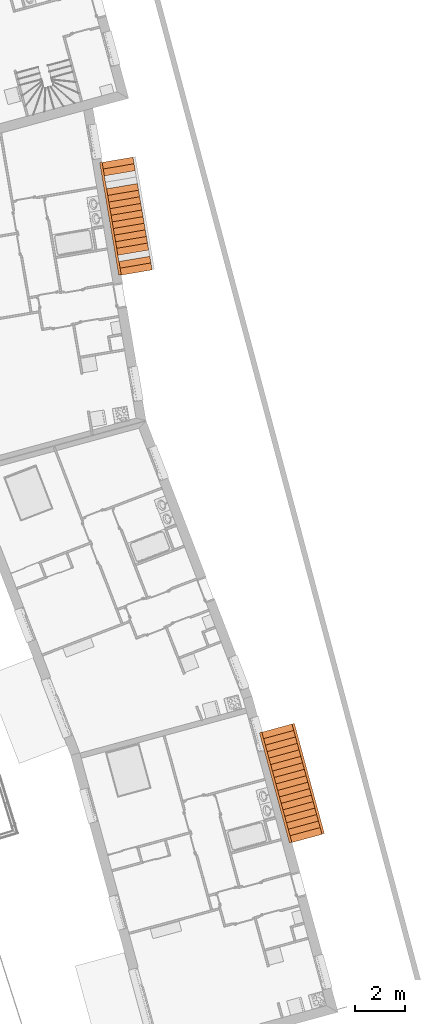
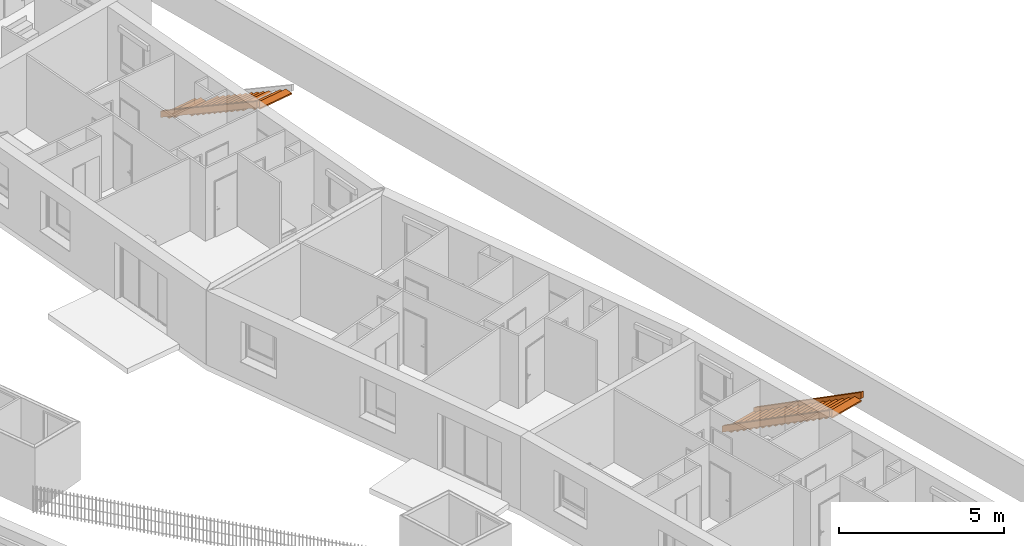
# One storey, part 193 of 195: 34 proxies, 2 elements without a shape of their own.
"""IFC2X3 building model written with IfcOpenShell, lengths in metres."""

from ifc_helpers import new_model, entity, si_unit, converted_unit, derived_unit, money_unit, direction, frame, origin_with_axes, place, context, subcontext, project, spatial, faceted_brep, material, type_object, element, aggregate, save


model = new_model("IFC2X3")

# Units and contexts
model_context = context("Model", 3, precision=1e-05, world=origin_with_axes(), true_north=direction((0.0, 1.0)))
body_context = subcontext(model_context, "Body", "Model", "MODEL_VIEW")
ifc_project = project(units=[si_unit("LENGTHUNIT", "METRE"), si_unit("AREAUNIT", "SQUARE_METRE"), si_unit("VOLUMEUNIT", "CUBIC_METRE"), converted_unit("PLANEANGLEUNIT", "DEGREE", entity("IfcPlaneAngleMeasure", 0.0174532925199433), si_unit("PLANEANGLEUNIT", "RADIAN"), dimensions=[0, 0, 0, 0, 0, 0, 0]), money_unit("CHF"), converted_unit("TIMEUNIT", "Year", entity("IfcTimeMeasure", 31557600.0), si_unit("TIMEUNIT", "SECOND"), dimensions=[0, 0, 1, 0, 0, 0, 0]), si_unit("MASSUNIT", "GRAM", prefix="KILO"), si_unit("THERMODYNAMICTEMPERATUREUNIT", "DEGREE_CELSIUS"), si_unit("LUMINOUSINTENSITYUNIT", "LUMEN"), si_unit("ENERGYUNIT", "JOULE", prefix="MEGA"), derived_unit("THERMALCONDUCTANCEUNIT", [(si_unit("POWERUNIT", "WATT"), 1), (si_unit("LENGTHUNIT", "METRE"), -1), (si_unit("THERMODYNAMICTEMPERATUREUNIT", "KELVIN"), -1)]), derived_unit("SPECIFICHEATCAPACITYUNIT", [(si_unit("ENERGYUNIT", "JOULE"), 1), (si_unit("MASSUNIT", "GRAM", prefix="KILO"), -1), (si_unit("THERMODYNAMICTEMPERATUREUNIT", "KELVIN"), -1)]), derived_unit("MASSDENSITYUNIT", [(si_unit("MASSUNIT", "GRAM", prefix="KILO"), 1), (si_unit("VOLUMEUNIT", "CUBIC_METRE"), -1)])], contexts=[model_context])

# Site, building, storey
site_placement = place(None, origin_with_axes())
site = spatial("IfcSite", under=ifc_project, at=site_placement, Name="Site", CompositionType="ELEMENT")
building_placement = place(site_placement, origin_with_axes())
building = spatial("IfcBuilding", under=site, at=building_placement, Name="Bâtiment", CompositionType="ELEMENT")
storey_placement = place(building_placement, origin_with_axes())
storey = spatial("IfcBuildingStorey", under=building, at=storey_placement, Name="rdc", CompositionType="ELEMENT", Elevation=0.0)

# Stair, proxies
stair_1_placement = place(storey_placement, frame((9595.28344814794, -1045.811355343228, 57.33248236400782), z_axis=(0.0, 0.0, 1.0), x_axis=(-2.25878143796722e-10, 1.0, 0.0)))
stair_1 = element("IfcStair", 1, at=stair_1_placement, inside=storey, Name="ESC-028", ShapeType="NOTDEFINED")
ifc_material_1 = material(Name="Isolant styromousse 288701002")
building_element_proxy_type = type_object("IfcBuildingElementProxyType", Name="IfcBuildingElementProxy", PredefinedType="NOTDEFINED")
proxy_1_placement = place(stair_1_placement, origin_with_axes())
proxy_1 = element("IfcBuildingElementProxy", 2, at=proxy_1_placement, type_object=building_element_proxy_type, material=ifc_material_1, Name="SS - 039", context=body_context, shape_type="Brep", body=[
    faceted_brep([(-4.428745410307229, -1.205949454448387, 2.882482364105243), (-4.428745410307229, -1.205949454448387, 3.117517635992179), (0.0, 0.0, 0.2841843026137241), (0.0, 0.0, 0.04914903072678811), (-4.402472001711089, -1.302436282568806, 3.117517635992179), (-4.402472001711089, -1.302436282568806, 2.882482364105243), (0.02627340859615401, -0.09648682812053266, 0.2841843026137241), (0.02627340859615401, -0.09648682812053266, 0.04914903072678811)], [[[0, 1, 2, 3]], [[4, 1, 0, 5]], [[1, 4, 6, 2]], [[2, 6, 7, 3]], [[5, 0, 3, 7]], [[4, 5, 7, 6]]]),
])
proxy_2_placement = place(stair_1_placement, origin_with_axes())
proxy_2 = element("IfcBuildingElementProxy", 3, at=proxy_2_placement, type_object=building_element_proxy_type, material=ifc_material_1, Name="SS - 039", context=body_context, shape_type="Brep", body=[
    faceted_brep([(-4.785391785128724, 0.1038036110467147, 2.882482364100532), (-4.785391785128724, 0.1038036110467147, 3.117517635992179), (-0.3566463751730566, 1.309753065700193, 0.2841843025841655), (-0.3566463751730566, 1.309753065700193, 0.04914903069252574), (-4.759118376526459, 0.007316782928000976, 3.117517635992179), (-4.759118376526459, 0.007316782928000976, 2.882482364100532), (-0.3303729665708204, 1.213266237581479, 0.2841843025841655), (-0.3303729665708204, 1.213266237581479, 0.04914903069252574)], [[[0, 1, 2, 3]], [[4, 1, 0, 5]], [[1, 4, 6, 2]], [[2, 6, 7, 3]], [[5, 0, 3, 7]], [[4, 5, 7, 6]]]),
])
ifc_material_2 = material(Name="Lame d'air 275581351")
proxy_3_placement = place(stair_1_placement, frame((-0.1274260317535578, 0.4679611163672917, 0.1666666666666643), z_axis=(0.0, 0.0, 1.0), x_axis=(-0.2627340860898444, 0.9648682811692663, 0.0)))
proxy_3 = element("IfcBuildingElementProxy", 4, at=proxy_3_placement, type_object=building_element_proxy_type, material=ifc_material_2, Name="MARCHE-537", context=body_context, shape_type="Brep", body=[
    faceted_brep([(-0.4849999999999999, 0.0, -0.05), (0.7724423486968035, 2.853337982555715e-10, -0.05), (0.7724423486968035, 2.853337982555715e-10, 0.0), (-0.4849999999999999, 0.0, 0.0), (-0.4849999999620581, 0.2849999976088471, -0.05), (0.7724423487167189, 0.2849999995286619, -0.05), (0.7724423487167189, 0.2849999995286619, 0.0), (-0.4849999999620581, 0.2849999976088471, 0.0)], [[[0, 1, 2, 3]], [[0, 4, 5, 1]], [[1, 5, 6, 2]], [[3, 2, 6, 7]], [[4, 0, 3, 7]], [[5, 4, 7, 6]]]),
])
proxy_4_placement = place(stair_1_placement, frame((-0.3879404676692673, 0.3970229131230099, 0.3333333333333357), z_axis=(0.0, 0.0, 1.0), x_axis=(-0.2627340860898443, 0.9648682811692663, 0.0)))
proxy_4 = element("IfcBuildingElementProxy", 5, at=proxy_4_placement, type_object=building_element_proxy_type, material=ifc_material_2, Name="MARCHE-538", context=body_context, shape_type="Brep", body=[
    faceted_brep([(-0.4849999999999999, 0.0, -0.05), (0.7724423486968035, 2.853337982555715e-10, -0.05), (0.7724423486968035, 2.853337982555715e-10, 0.0), (-0.4849999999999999, 0.0, 0.0), (-0.4849999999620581, 0.2849999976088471, -0.05), (0.7724423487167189, 0.2849999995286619, -0.05), (0.7724423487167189, 0.2849999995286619, 0.0), (-0.4849999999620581, 0.2849999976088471, 0.0)], [[[0, 1, 2, 3]], [[0, 4, 5, 1]], [[1, 5, 6, 2]], [[3, 2, 6, 7]], [[4, 0, 3, 7]], [[5, 4, 7, 6]]]),
])
proxy_5_placement = place(stair_1_placement, frame((-0.6484549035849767, 0.3260847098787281, 0.5), z_axis=(0.0, 0.0, 1.0), x_axis=(-0.2627340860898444, 0.9648682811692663, 0.0)))
proxy_5 = element("IfcBuildingElementProxy", 6, at=proxy_5_placement, type_object=building_element_proxy_type, material=ifc_material_2, Name="MARCHE-539", context=body_context, shape_type="Brep", body=[
    faceted_brep([(-0.4849999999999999, 0.0, -0.05), (0.7724423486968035, 2.853337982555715e-10, -0.05), (0.7724423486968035, 2.853337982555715e-10, 0.0), (-0.4849999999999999, 0.0, 0.0), (-0.4849999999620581, 0.2849999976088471, -0.05), (0.7724423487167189, 0.2849999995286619, -0.05), (0.7724423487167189, 0.2849999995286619, 0.0), (-0.4849999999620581, 0.2849999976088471, 0.0)], [[[0, 1, 2, 3]], [[0, 4, 5, 1]], [[1, 5, 6, 2]], [[3, 2, 6, 7]], [[4, 0, 3, 7]], [[5, 4, 7, 6]]]),
])
proxy_6_placement = place(stair_1_placement, frame((-0.9089693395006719, 0.25514650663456, 0.6666666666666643), z_axis=(0.0, 0.0, 1.0), x_axis=(-0.2627340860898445, 0.9648682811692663, 0.0)))
proxy_6 = element("IfcBuildingElementProxy", 7, at=proxy_6_placement, type_object=building_element_proxy_type, material=ifc_material_2, Name="MARCHE-540", context=body_context, shape_type="Brep", body=[
    faceted_brep([(-0.4849999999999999, 0.0, -0.05), (0.7724423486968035, 2.853337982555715e-10, -0.05), (0.7724423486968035, 2.853337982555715e-10, 0.0), (-0.4849999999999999, 0.0, 0.0), (-0.4849999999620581, 0.2849999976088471, -0.05), (0.7724423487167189, 0.2849999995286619, -0.05), (0.7724423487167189, 0.2849999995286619, 0.0), (-0.4849999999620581, 0.2849999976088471, 0.0)], [[[0, 1, 2, 3]], [[0, 4, 5, 1]], [[1, 5, 6, 2]], [[3, 2, 6, 7]], [[4, 0, 3, 7]], [[5, 4, 7, 6]]]),
])
proxy_7_placement = place(stair_1_placement, frame((-1.169483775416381, 0.1842083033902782, 0.8333333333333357), z_axis=(0.0, 0.0, 1.0), x_axis=(-0.2627340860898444, 0.9648682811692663, 0.0)))
proxy_7 = element("IfcBuildingElementProxy", 8, at=proxy_7_placement, type_object=building_element_proxy_type, material=ifc_material_2, Name="MARCHE-541", context=body_context, shape_type="Brep", body=[
    faceted_brep([(-0.4849999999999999, 0.0, -0.05), (0.7724423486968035, 2.853337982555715e-10, -0.05), (0.7724423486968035, 2.853337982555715e-10, 0.0), (-0.4849999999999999, 0.0, 0.0), (-0.4849999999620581, 0.2849999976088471, -0.05), (0.7724423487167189, 0.2849999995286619, -0.05), (0.7724423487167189, 0.2849999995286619, 0.0), (-0.4849999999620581, 0.2849999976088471, 0.0)], [[[0, 1, 2, 3]], [[0, 4, 5, 1]], [[1, 5, 6, 2]], [[3, 2, 6, 7]], [[4, 0, 3, 7]], [[5, 4, 7, 6]]]),
])
proxy_8_placement = place(stair_1_placement, frame((-1.690512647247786, 0.04233189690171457, 1.166666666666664), z_axis=(0.0, 0.0, 1.0), x_axis=(-0.2627340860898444, 0.9648682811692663, 0.0)))
proxy_8 = element("IfcBuildingElementProxy", 9, at=proxy_8_placement, type_object=building_element_proxy_type, material=ifc_material_2, Name="MARCHE-543", context=body_context, shape_type="Brep", body=[
    faceted_brep([(-0.4849999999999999, 0.0, -0.05), (0.7724423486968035, 2.853337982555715e-10, -0.05), (0.7724423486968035, 2.853337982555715e-10, 0.0), (-0.4849999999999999, 0.0, 0.0), (-0.4849999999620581, 0.2849999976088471, -0.05), (0.7724423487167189, 0.2849999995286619, -0.05), (0.7724423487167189, 0.2849999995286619, 0.0), (-0.4849999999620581, 0.2849999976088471, 0.0)], [[[0, 1, 2, 3]], [[0, 4, 5, 1]], [[1, 5, 6, 2]], [[3, 2, 6, 7]], [[4, 0, 3, 7]], [[5, 4, 7, 6]]]),
])
proxy_9_placement = place(stair_1_placement, frame((-1.429998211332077, 0.1132701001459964, 1.0), z_axis=(0.0, 0.0, 1.0), x_axis=(-0.2627340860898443, 0.9648682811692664, 0.0)))
proxy_9 = element("IfcBuildingElementProxy", 10, at=proxy_9_placement, type_object=building_element_proxy_type, material=ifc_material_2, Name="MARCHE-542", context=body_context, shape_type="Brep", body=[
    faceted_brep([(-0.4849999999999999, 0.0, -0.05), (0.7724423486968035, 2.853337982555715e-10, -0.05), (0.7724423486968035, 2.853337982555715e-10, 0.0), (-0.4849999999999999, 0.0, 0.0), (-0.4849999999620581, 0.2849999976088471, -0.05), (0.7724423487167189, 0.2849999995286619, -0.05), (0.7724423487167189, 0.2849999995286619, 0.0), (-0.4849999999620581, 0.2849999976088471, 0.0)], [[[0, 1, 2, 3]], [[0, 4, 5, 1]], [[1, 5, 6, 2]], [[3, 2, 6, 7]], [[4, 0, 3, 7]], [[5, 4, 7, 6]]]),
])
proxy_10_placement = place(stair_1_placement, frame((-2.211541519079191, -0.09954450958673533, 1.5), z_axis=(0.0, 0.0, 1.0), x_axis=(-0.2627340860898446, 0.9648682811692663, 0.0)))
proxy_10 = element("IfcBuildingElementProxy", 11, at=proxy_10_placement, type_object=building_element_proxy_type, material=ifc_material_2, Name="MARCHE-545", context=body_context, shape_type="Brep", body=[
    faceted_brep([(-0.4849999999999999, 0.0, -0.05), (0.7724423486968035, 2.853337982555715e-10, -0.05), (0.7724423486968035, 2.853337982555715e-10, 0.0), (-0.4849999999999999, 0.0, 0.0), (-0.4849999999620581, 0.2849999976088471, -0.05), (0.7724423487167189, 0.2849999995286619, -0.05), (0.7724423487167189, 0.2849999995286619, 0.0), (-0.4849999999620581, 0.2849999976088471, 0.0)], [[[0, 1, 2, 3]], [[0, 4, 5, 1]], [[1, 5, 6, 2]], [[3, 2, 6, 7]], [[4, 0, 3, 7]], [[5, 4, 7, 6]]]),
])
proxy_11_placement = place(stair_1_placement, frame((-1.951027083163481, -0.02860630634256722, 1.333333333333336), z_axis=(0.0, 0.0, 1.0), x_axis=(-0.2627340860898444, 0.9648682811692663, 0.0)))
proxy_11 = element("IfcBuildingElementProxy", 12, at=proxy_11_placement, type_object=building_element_proxy_type, material=ifc_material_2, Name="MARCHE-544", context=body_context, shape_type="Brep", body=[
    faceted_brep([(-0.4849999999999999, 0.0, -0.05), (0.7724423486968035, 2.853337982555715e-10, -0.05), (0.7724423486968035, 2.853337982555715e-10, 0.0), (-0.4849999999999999, 0.0, 0.0), (-0.4849999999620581, 0.2849999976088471, -0.05), (0.7724423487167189, 0.2849999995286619, -0.05), (0.7724423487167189, 0.2849999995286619, 0.0), (-0.4849999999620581, 0.2849999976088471, 0.0)], [[[0, 1, 2, 3]], [[0, 4, 5, 1]], [[1, 5, 6, 2]], [[3, 2, 6, 7]], [[4, 0, 3, 7]], [[5, 4, 7, 6]]]),
])
proxy_12_placement = place(stair_1_placement, frame((-2.732570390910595, -0.2414209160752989, 1.833333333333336), z_axis=(0.0, 0.0, 1.0), x_axis=(-0.2627340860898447, 0.9648682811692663, 0.0)))
proxy_12 = element("IfcBuildingElementProxy", 13, at=proxy_12_placement, type_object=building_element_proxy_type, material=ifc_material_2, Name="MARCHE-547", context=body_context, shape_type="Brep", body=[
    faceted_brep([(-0.4849999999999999, 0.0, -0.05), (0.7724423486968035, 2.853337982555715e-10, -0.05), (0.7724423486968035, 2.853337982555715e-10, 0.0), (-0.4849999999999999, 0.0, 0.0), (-0.4849999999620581, 0.2849999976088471, -0.05), (0.7724423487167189, 0.2849999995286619, -0.05), (0.7724423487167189, 0.2849999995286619, 0.0), (-0.4849999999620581, 0.2849999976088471, 0.0)], [[[0, 1, 2, 3]], [[0, 4, 5, 1]], [[1, 5, 6, 2]], [[3, 2, 6, 7]], [[4, 0, 3, 7]], [[5, 4, 7, 6]]]),
])
proxy_13_placement = place(stair_1_placement, frame((-2.472055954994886, -0.1704827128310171, 1.666666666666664), z_axis=(0.0, 0.0, 1.0), x_axis=(-0.2627340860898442, 0.9648682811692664, 0.0)))
proxy_13 = element("IfcBuildingElementProxy", 14, at=proxy_13_placement, type_object=building_element_proxy_type, material=ifc_material_2, Name="MARCHE-546", context=body_context, shape_type="Brep", body=[
    faceted_brep([(-0.4849999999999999, 0.0, -0.05), (0.7724423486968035, 2.853337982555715e-10, -0.05), (0.7724423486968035, 2.853337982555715e-10, 0.0), (-0.4849999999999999, 0.0, 0.0), (-0.4849999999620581, 0.2849999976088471, -0.05), (0.7724423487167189, 0.2849999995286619, -0.05), (0.7724423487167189, 0.2849999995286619, 0.0), (-0.4849999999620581, 0.2849999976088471, 0.0)], [[[0, 1, 2, 3]], [[0, 4, 5, 1]], [[1, 5, 6, 2]], [[3, 2, 6, 7]], [[4, 0, 3, 7]], [[5, 4, 7, 6]]]),
])
proxy_14_placement = place(stair_1_placement, frame((-3.514113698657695, -0.4542355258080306, 2.333333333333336), z_axis=(0.0, 0.0, 1.0), x_axis=(-0.2627340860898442, 0.9648682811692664, 0.0)))
proxy_14 = element("IfcBuildingElementProxy", 15, at=proxy_14_placement, type_object=building_element_proxy_type, material=ifc_material_2, Name="MARCHE-550", context=body_context, shape_type="Brep", body=[
    faceted_brep([(-0.4849999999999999, 0.0, -0.05), (0.7724423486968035, 2.853337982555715e-10, -0.05), (0.7724423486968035, 2.853337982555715e-10, 0.0), (-0.4849999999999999, 0.0, 0.0), (-0.4849999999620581, 0.2849999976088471, -0.05), (0.7724423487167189, 0.2849999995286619, -0.05), (0.7724423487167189, 0.2849999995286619, 0.0), (-0.4849999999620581, 0.2849999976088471, 0.0)], [[[0, 1, 2, 3]], [[0, 4, 5, 1]], [[1, 5, 6, 2]], [[3, 2, 6, 7]], [[4, 0, 3, 7]], [[5, 4, 7, 6]]]),
])
proxy_15_placement = place(stair_1_placement, frame((-3.253599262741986, -0.3832973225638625, 2.166666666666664), z_axis=(0.0, 0.0, 1.0), x_axis=(-0.2627340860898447, 0.9648682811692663, 0.0)))
proxy_15 = element("IfcBuildingElementProxy", 16, at=proxy_15_placement, type_object=building_element_proxy_type, material=ifc_material_2, Name="MARCHE-549", context=body_context, shape_type="Brep", body=[
    faceted_brep([(-0.4849999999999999, 0.0, -0.05), (0.7724423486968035, 2.853337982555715e-10, -0.05), (0.7724423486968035, 2.853337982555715e-10, 0.0), (-0.4849999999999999, 0.0, 0.0), (-0.4849999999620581, 0.2849999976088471, -0.05), (0.7724423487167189, 0.2849999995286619, -0.05), (0.7724423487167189, 0.2849999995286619, 0.0), (-0.4849999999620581, 0.2849999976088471, 0.0)], [[[0, 1, 2, 3]], [[0, 4, 5, 1]], [[1, 5, 6, 2]], [[3, 2, 6, 7]], [[4, 0, 3, 7]], [[5, 4, 7, 6]]]),
])
proxy_16_placement = place(stair_1_placement, frame((-2.993084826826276, -0.3123591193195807, 2.0), z_axis=(0.0, 0.0, 1.0), x_axis=(-0.2627340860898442, 0.9648682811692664, 0.0)))
proxy_16 = element("IfcBuildingElementProxy", 17, at=proxy_16_placement, type_object=building_element_proxy_type, material=ifc_material_2, Name="MARCHE-548", context=body_context, shape_type="Brep", body=[
    faceted_brep([(-0.4849999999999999, 0.0, -0.05), (0.7724423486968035, 2.853337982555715e-10, -0.05), (0.7724423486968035, 2.853337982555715e-10, 0.0), (-0.4849999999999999, 0.0, 0.0), (-0.4849999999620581, 0.2849999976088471, -0.05), (0.7724423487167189, 0.2849999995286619, -0.05), (0.7724423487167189, 0.2849999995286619, 0.0), (-0.4849999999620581, 0.2849999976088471, 0.0)], [[[0, 1, 2, 3]], [[0, 4, 5, 1]], [[1, 5, 6, 2]], [[3, 2, 6, 7]], [[4, 0, 3, 7]], [[5, 4, 7, 6]]]),
])
proxy_17_placement = place(stair_1_placement, frame((-3.774628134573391, -0.5251737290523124, 2.5), z_axis=(0.0, 0.0, 1.0), x_axis=(-0.2627340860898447, 0.9648682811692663, 0.0)))
proxy_17 = element("IfcBuildingElementProxy", 18, at=proxy_17_placement, type_object=building_element_proxy_type, material=ifc_material_2, Name="MARCHE-551", context=body_context, shape_type="Brep", body=[
    faceted_brep([(-0.4849999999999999, 0.0, -0.05), (0.7724423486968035, 2.853337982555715e-10, -0.05), (0.7724423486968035, 2.853337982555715e-10, 0.0), (-0.4849999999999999, 0.0, 0.0), (-0.4849999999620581, 0.2849999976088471, -0.05), (0.7724423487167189, 0.2849999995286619, -0.05), (0.7724423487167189, 0.2849999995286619, 0.0), (-0.4849999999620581, 0.2849999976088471, 0.0)], [[[0, 1, 2, 3]], [[0, 4, 5, 1]], [[1, 5, 6, 2]], [[3, 2, 6, 7]], [[4, 0, 3, 7]], [[5, 4, 7, 6]]]),
])
proxy_18_placement = place(stair_1_placement, frame((-4.295657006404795, -0.667050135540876, 2.833333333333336), z_axis=(0.0, 0.0, 1.0), x_axis=(-0.262734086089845, 0.9648682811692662, 0.0)))
proxy_18 = element("IfcBuildingElementProxy", 19, at=proxy_18_placement, type_object=building_element_proxy_type, material=ifc_material_2, Name="MARCHE-553", context=body_context, shape_type="Brep", body=[
    faceted_brep([(-0.4849999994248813, 0.0, -0.05), (0.7724423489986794, 0.0, -0.05), (0.7724423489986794, 0.0, 0.0), (-0.4849999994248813, 0.0, 0.0), (-0.4849999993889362, 0.2699999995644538, -0.05), (-0.4849999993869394, 0.2849999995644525, -0.05), (0.7724423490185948, 0.2849999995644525, -0.05), (0.7724423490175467, 0.269999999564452, -0.05), (0.7724423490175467, 0.269999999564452, 0.0), (0.7724423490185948, 0.2849999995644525, 0.0), (-0.4849999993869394, 0.2849999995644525, 0.0), (-0.4849999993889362, 0.2699999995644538, 0.0)], [[[0, 1, 2, 3]], [[0, 4, 5, 6, 7, 1]], [[1, 7, 8, 2]], [[3, 2, 8, 9, 10, 11]], [[4, 0, 3, 11]], [[5, 4, 11, 10]], [[6, 5, 10, 9]], [[7, 6, 9, 8]]]),
])
proxy_19_placement = place(stair_1_placement, frame((-4.0351425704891, -0.5961119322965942, 2.666666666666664), z_axis=(0.0, 0.0, 1.0), x_axis=(-0.2627340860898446, 0.9648682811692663, 0.0)))
proxy_19 = element("IfcBuildingElementProxy", 20, at=proxy_19_placement, type_object=building_element_proxy_type, material=ifc_material_2, Name="MARCHE-552", context=body_context, shape_type="Brep", body=[
    faceted_brep([(-0.4849999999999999, 0.0, -0.05), (0.7724423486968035, 2.853337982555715e-10, -0.05), (0.7724423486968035, 2.853337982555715e-10, 0.0), (-0.4849999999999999, 0.0, 0.0), (-0.4849999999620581, 0.2849999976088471, -0.05), (0.7724423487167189, 0.2849999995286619, -0.05), (0.7724423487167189, 0.2849999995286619, 0.0), (-0.4849999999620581, 0.2849999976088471, 0.0)], [[[0, 1, 2, 3]], [[0, 4, 5, 1]], [[1, 5, 6, 2]], [[3, 2, 6, 7]], [[4, 0, 3, 7]], [[5, 4, 7, 6]]]),
])
aggregate(stair_1, [proxy_1, proxy_2, proxy_3, proxy_4, proxy_5, proxy_6, proxy_7, proxy_8, proxy_9, proxy_10, proxy_11, proxy_12, proxy_13, proxy_14, proxy_15, proxy_16, proxy_17, proxy_18, proxy_19])

stair_2_placement = place(storey_placement, frame((9588.879218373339, -1022.991794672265, 57.33248236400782), z_axis=(0.0, 0.0, 1.0), x_axis=(0.0973908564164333, 0.9952462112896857, 0.0)))
stair_2 = element("IfcStair", 21, at=stair_2_placement, inside=storey, Name="ESC-028", ShapeType="NOTDEFINED")
proxy_20_placement = place(stair_2_placement, origin_with_axes())
proxy_20 = element("IfcBuildingElementProxy", 22, at=proxy_20_placement, type_object=building_element_proxy_type, material=ifc_material_1, Name="SS - 039", context=body_context, shape_type="Brep", body=[
    faceted_brep([(-4.785391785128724, 0.1038036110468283, 2.882482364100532), (-4.785391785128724, 0.1038036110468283, 3.117517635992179), (-0.3566463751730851, 1.309753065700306, 0.2841843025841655), (-0.3566463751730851, 1.309753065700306, 0.04914903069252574), (-4.759118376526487, 0.007316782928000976, 3.117517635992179), (-4.759118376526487, 0.007316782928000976, 2.882482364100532), (-0.3303729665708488, 1.213266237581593, 0.2841843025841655), (-0.3303729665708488, 1.213266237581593, 0.04914903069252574)], [[[0, 1, 2, 3]], [[4, 1, 0, 5]], [[1, 4, 6, 2]], [[2, 6, 7, 3]], [[5, 0, 3, 7]], [[4, 5, 7, 6]]]),
])
proxy_21_placement = place(stair_2_placement, frame((-0.127426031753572, 0.4679611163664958, 0.1666666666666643), z_axis=(0.0, 0.0, 1.0), x_axis=(-0.2627340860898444, 0.9648682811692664, 0.0)))
proxy_21 = element("IfcBuildingElementProxy", 23, at=proxy_21_placement, type_object=building_element_proxy_type, material=ifc_material_2, Name="MARCHE-537", context=body_context, shape_type="Brep", body=[
    faceted_brep([(-0.4850000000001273, 0.0, -0.04999999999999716), (0.7724423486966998, 2.853255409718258e-10, -0.04999999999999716), (0.7724423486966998, 2.853255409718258e-10, 0.0), (-0.4850000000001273, 0.0, 0.0), (-0.4849999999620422, 0.2849999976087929, -0.04999999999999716), (0.7724423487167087, 0.284999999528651, -0.04999999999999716), (0.7724423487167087, 0.284999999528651, 0.0), (-0.4849999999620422, 0.2849999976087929, 0.0)], [[[0, 1, 2, 3]], [[0, 4, 5, 1]], [[1, 5, 6, 2]], [[3, 2, 6, 7]], [[4, 0, 3, 7]], [[5, 4, 7, 6]]]),
])
proxy_22_placement = place(stair_2_placement, frame((-0.3879404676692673, 0.3970229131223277, 0.3333333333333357), z_axis=(0.0, 0.0, 1.0), x_axis=(-0.2627340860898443, 0.9648682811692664, 0.0)))
proxy_22 = element("IfcBuildingElementProxy", 24, at=proxy_22_placement, type_object=building_element_proxy_type, material=ifc_material_2, Name="MARCHE-538", context=body_context, shape_type="Brep", body=[
    faceted_brep([(-0.4850000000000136, 0.0, -0.04999999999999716), (0.7724423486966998, 2.853539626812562e-10, -0.04999999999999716), (0.7724423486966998, 2.853539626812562e-10, 0.0), (-0.4850000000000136, 0.0, 0.0), (-0.4849999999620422, 0.2849999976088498, -0.04999999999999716), (0.7724423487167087, 0.2849999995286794, -0.04999999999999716), (0.7724423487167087, 0.2849999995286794, 0.0), (-0.4849999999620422, 0.2849999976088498, 0.0)], [[[0, 1, 2, 3]], [[0, 4, 5, 1]], [[1, 5, 6, 2]], [[3, 2, 6, 7]], [[4, 0, 3, 7]], [[5, 4, 7, 6]]]),
])
proxy_23_placement = place(stair_2_placement, frame((-1.429998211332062, 0.1132701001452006, 1.0), z_axis=(0.0, 0.0, 1.0), x_axis=(-0.2627340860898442, 0.9648682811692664, 0.0)))
proxy_23 = element("IfcBuildingElementProxy", 25, at=proxy_23_placement, type_object=building_element_proxy_type, material=ifc_material_2, Name="MARCHE-542", context=body_context, shape_type="Brep", body=[
    faceted_brep([(-0.4850000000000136, 0.0, -0.04999999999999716), (0.7724423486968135, 2.853539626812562e-10, -0.04999999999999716), (0.7724423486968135, 2.853539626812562e-10, 0.0), (-0.4850000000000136, 0.0, 0.0), (-0.4849999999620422, 0.2849999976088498, -0.04999999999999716), (0.7724423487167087, 0.2849999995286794, -0.04999999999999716), (0.7724423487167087, 0.2849999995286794, 0.0), (-0.4849999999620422, 0.2849999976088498, 0.0)], [[[0, 1, 2, 3]], [[0, 4, 5, 1]], [[1, 5, 6, 2]], [[3, 2, 6, 7]], [[4, 0, 3, 7]], [[5, 4, 7, 6]]]),
])
proxy_24_placement = place(stair_2_placement, frame((-1.169483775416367, 0.184208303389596, 0.8333333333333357), z_axis=(0.0, 0.0, 1.0), x_axis=(-0.2627340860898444, 0.9648682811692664, 0.0)))
proxy_24 = element("IfcBuildingElementProxy", 26, at=proxy_24_placement, type_object=building_element_proxy_type, material=ifc_material_2, Name="MARCHE-541", context=body_context, shape_type="Brep", body=[
    faceted_brep([(-0.4849999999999, 0.0, -0.04999999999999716), (0.7724423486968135, 2.853255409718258e-10, -0.04999999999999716), (0.7724423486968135, 2.853255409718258e-10, 0.0), (-0.4849999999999, 0.0, 0.0), (-0.4849999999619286, 0.2849999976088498, -0.04999999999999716), (0.7724423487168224, 0.2849999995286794, -0.04999999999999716), (0.7724423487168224, 0.2849999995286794, 0.0), (-0.4849999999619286, 0.2849999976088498, 0.0)], [[[0, 1, 2, 3]], [[0, 4, 5, 1]], [[1, 5, 6, 2]], [[3, 2, 6, 7]], [[4, 0, 3, 7]], [[5, 4, 7, 6]]]),
])
proxy_25_placement = place(stair_2_placement, frame((-1.690512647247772, 0.04233189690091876, 1.166666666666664), z_axis=(0.0, 0.0, 1.0), x_axis=(-0.2627340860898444, 0.9648682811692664, 0.0)))
proxy_25 = element("IfcBuildingElementProxy", 27, at=proxy_25_placement, type_object=building_element_proxy_type, material=ifc_material_2, Name="MARCHE-543", context=body_context, shape_type="Brep", body=[
    faceted_brep([(-0.4850000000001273, 0.0, -0.04999999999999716), (0.7724423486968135, 2.853823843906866e-10, -0.04999999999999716), (0.7724423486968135, 2.853823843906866e-10, 0.0), (-0.4850000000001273, 0.0, 0.0), (-0.4849999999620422, 0.2849999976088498, -0.04999999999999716), (0.7724423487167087, 0.2849999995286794, -0.04999999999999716), (0.7724423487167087, 0.2849999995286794, 0.0), (-0.4849999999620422, 0.2849999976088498, 0.0)], [[[0, 1, 2, 3]], [[0, 4, 5, 1]], [[1, 5, 6, 2]], [[3, 2, 6, 7]], [[4, 0, 3, 7]], [[5, 4, 7, 6]]]),
])
proxy_26_placement = place(stair_2_placement, frame((-1.951027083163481, -0.02860630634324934, 1.333333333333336), z_axis=(0.0, 0.0, 1.0), x_axis=(-0.2627340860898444, 0.9648682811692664, 0.0)))
proxy_26 = element("IfcBuildingElementProxy", 28, at=proxy_26_placement, type_object=building_element_proxy_type, material=ifc_material_2, Name="MARCHE-544", context=body_context, shape_type="Brep", body=[
    faceted_brep([(-0.4850000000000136, 0.0, -0.04999999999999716), (0.7724423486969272, 2.853539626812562e-10, -0.04999999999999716), (0.7724423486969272, 2.853539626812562e-10, 0.0), (-0.4850000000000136, 0.0, 0.0), (-0.4849999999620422, 0.2849999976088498, -0.04999999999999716), (0.7724423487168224, 0.2849999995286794, -0.04999999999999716), (0.7724423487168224, 0.2849999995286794, 0.0), (-0.4849999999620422, 0.2849999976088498, 0.0)], [[[0, 1, 2, 3]], [[0, 4, 5, 1]], [[1, 5, 6, 2]], [[3, 2, 6, 7]], [[4, 0, 3, 7]], [[5, 4, 7, 6]]]),
])
proxy_27_placement = place(stair_2_placement, frame((-2.211541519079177, -0.09954450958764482, 1.5), z_axis=(0.0, 0.0, 1.0), x_axis=(-0.2627340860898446, 0.9648682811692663, 0.0)))
proxy_27 = element("IfcBuildingElementProxy", 29, at=proxy_27_placement, type_object=building_element_proxy_type, material=ifc_material_2, Name="MARCHE-545", context=body_context, shape_type="Brep", body=[
    faceted_brep([(-0.4850000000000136, 0.0, -0.04999999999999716), (0.7724423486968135, 2.852971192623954e-10, -0.04999999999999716), (0.7724423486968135, 2.852971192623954e-10, 0.0), (-0.4850000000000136, 0.0, 0.0), (-0.4849999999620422, 0.2849999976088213, -0.04999999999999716), (0.7724423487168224, 0.2849999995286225, -0.04999999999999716), (0.7724423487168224, 0.2849999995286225, 0.0), (-0.4849999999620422, 0.2849999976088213, 0.0)], [[[0, 1, 2, 3]], [[0, 4, 5, 1]], [[1, 5, 6, 2]], [[3, 2, 6, 7]], [[4, 0, 3, 7]], [[5, 4, 7, 6]]]),
])
proxy_28_placement = place(stair_2_placement, frame((-2.472055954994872, -0.1704827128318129, 1.666666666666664), z_axis=(0.0, 0.0, 1.0), x_axis=(-0.2627340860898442, 0.9648682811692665, 0.0)))
proxy_28 = element("IfcBuildingElementProxy", 30, at=proxy_28_placement, type_object=building_element_proxy_type, material=ifc_material_2, Name="MARCHE-546", context=body_context, shape_type="Brep", body=[
    faceted_brep([(-0.4850000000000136, 0.0, -0.04999999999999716), (0.7724423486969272, 2.853539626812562e-10, -0.04999999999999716), (0.7724423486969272, 2.853539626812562e-10, 0.0), (-0.4850000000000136, 0.0, 0.0), (-0.4849999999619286, 0.2849999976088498, -0.04999999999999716), (0.7724423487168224, 0.2849999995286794, -0.04999999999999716), (0.7724423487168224, 0.2849999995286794, 0.0), (-0.4849999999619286, 0.2849999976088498, 0.0)], [[[0, 1, 2, 3]], [[0, 4, 5, 1]], [[1, 5, 6, 2]], [[3, 2, 6, 7]], [[4, 0, 3, 7]], [[5, 4, 7, 6]]]),
])
proxy_29_placement = place(stair_2_placement, frame((-2.732570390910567, -0.2414209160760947, 1.833333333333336), z_axis=(0.0, 0.0, 1.0), x_axis=(-0.2627340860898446, 0.9648682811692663, 0.0)))
proxy_29 = element("IfcBuildingElementProxy", 31, at=proxy_29_placement, type_object=building_element_proxy_type, material=ifc_material_2, Name="MARCHE-547", context=body_context, shape_type="Brep", body=[
    faceted_brep([(-0.4850000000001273, 0.0, -0.04999999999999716), (0.7724423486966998, 2.853539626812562e-10, -0.04999999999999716), (0.7724423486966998, 2.853539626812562e-10, 0.0), (-0.4850000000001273, 0.0, 0.0), (-0.4849999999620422, 0.2849999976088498, -0.04999999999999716), (0.7724423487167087, 0.2849999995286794, -0.04999999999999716), (0.7724423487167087, 0.2849999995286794, 0.0), (-0.4849999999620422, 0.2849999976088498, 0.0)], [[[0, 1, 2, 3]], [[0, 4, 5, 1]], [[1, 5, 6, 2]], [[3, 2, 6, 7]], [[4, 0, 3, 7]], [[5, 4, 7, 6]]]),
])
proxy_30_placement = place(stair_2_placement, frame((-2.993084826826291, -0.3123591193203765, 2.0), z_axis=(0.0, 0.0, 1.0), x_axis=(-0.2627340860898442, 0.9648682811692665, 0.0)))
proxy_30 = element("IfcBuildingElementProxy", 32, at=proxy_30_placement, type_object=building_element_proxy_type, material=ifc_material_2, Name="MARCHE-548", context=body_context, shape_type="Brep", body=[
    faceted_brep([(-0.4850000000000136, 0.0, -0.04999999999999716), (0.7724423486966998, 2.853255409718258e-10, -0.04999999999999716), (0.7724423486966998, 2.853255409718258e-10, 0.0), (-0.4850000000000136, 0.0, 0.0), (-0.4849999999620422, 0.2849999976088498, -0.04999999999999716), (0.7724423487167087, 0.284999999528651, -0.04999999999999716), (0.7724423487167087, 0.284999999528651, 0.0), (-0.4849999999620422, 0.2849999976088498, 0.0)], [[[0, 1, 2, 3]], [[0, 4, 5, 1]], [[1, 5, 6, 2]], [[3, 2, 6, 7]], [[4, 0, 3, 7]], [[5, 4, 7, 6]]]),
])
proxy_31_placement = place(stair_2_placement, frame((-3.514113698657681, -0.4542355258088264, 2.333333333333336), z_axis=(0.0, 0.0, 1.0), x_axis=(-0.2627340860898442, 0.9648682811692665, 0.0)))
proxy_31 = element("IfcBuildingElementProxy", 33, at=proxy_31_placement, type_object=building_element_proxy_type, material=ifc_material_2, Name="MARCHE-550", context=body_context, shape_type="Brep", body=[
    faceted_brep([(-0.4850000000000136, 0.0, -0.04999999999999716), (0.7724423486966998, 2.852971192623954e-10, -0.04999999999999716), (0.7724423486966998, 2.852971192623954e-10, 0.0), (-0.4850000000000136, 0.0, 0.0), (-0.4849999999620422, 0.2849999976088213, -0.04999999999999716), (0.7724423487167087, 0.2849999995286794, -0.04999999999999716), (0.7724423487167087, 0.2849999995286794, 0.0), (-0.4849999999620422, 0.2849999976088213, 0.0)], [[[0, 1, 2, 3]], [[0, 4, 5, 1]], [[1, 5, 6, 2]], [[3, 2, 6, 7]], [[4, 0, 3, 7]], [[5, 4, 7, 6]]]),
])
proxy_32_placement = place(stair_2_placement, frame((-4.035142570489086, -0.59611193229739, 2.666666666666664), z_axis=(0.0, 0.0, 1.0), x_axis=(-0.2627340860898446, 0.9648682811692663, 0.0)))
proxy_32 = element("IfcBuildingElementProxy", 34, at=proxy_32_placement, type_object=building_element_proxy_type, material=ifc_material_2, Name="MARCHE-552", context=body_context, shape_type="Brep", body=[
    faceted_brep([(-0.4849999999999, 0.0, -0.04999999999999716), (0.7724423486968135, 2.853255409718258e-10, -0.04999999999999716), (0.7724423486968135, 2.853255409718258e-10, 0.0), (-0.4849999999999, 0.0, 0.0), (-0.4849999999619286, 0.2849999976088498, -0.04999999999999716), (0.7724423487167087, 0.2849999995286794, -0.04999999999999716), (0.7724423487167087, 0.2849999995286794, 0.0), (-0.4849999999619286, 0.2849999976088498, 0.0)], [[[0, 1, 2, 3]], [[0, 4, 5, 1]], [[1, 5, 6, 2]], [[3, 2, 6, 7]], [[4, 0, 3, 7]], [[5, 4, 7, 6]]]),
])
proxy_33_placement = place(stair_2_placement, frame((-3.253599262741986, -0.3832973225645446, 2.166666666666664), z_axis=(0.0, 0.0, 1.0), x_axis=(-0.2627340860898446, 0.9648682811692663, 0.0)))
proxy_33 = element("IfcBuildingElementProxy", 35, at=proxy_33_placement, type_object=building_element_proxy_type, material=ifc_material_2, Name="MARCHE-549", context=body_context, shape_type="Brep", body=[
    faceted_brep([(-0.4850000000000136, 0.0, -0.04999999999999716), (0.7724423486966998, 2.852971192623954e-10, -0.04999999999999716), (0.7724423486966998, 2.852971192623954e-10, 0.0), (-0.4850000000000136, 0.0, 0.0), (-0.4849999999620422, 0.2849999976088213, -0.04999999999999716), (0.772442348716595, 0.2849999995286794, -0.04999999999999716), (0.772442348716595, 0.2849999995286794, 0.0), (-0.4849999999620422, 0.2849999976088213, 0.0)], [[[0, 1, 2, 3]], [[0, 4, 5, 1]], [[1, 5, 6, 2]], [[3, 2, 6, 7]], [[4, 0, 3, 7]], [[5, 4, 7, 6]]]),
])
proxy_34_placement = place(stair_2_placement, frame((-4.295657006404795, -0.6670501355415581, 2.833333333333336), z_axis=(0.0, 0.0, 1.0), x_axis=(-0.2627340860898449, 0.9648682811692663, 0.0)))
proxy_34 = element("IfcBuildingElementProxy", 36, at=proxy_34_placement, type_object=building_element_proxy_type, material=ifc_material_2, Name="MARCHE-553", context=body_context, shape_type="Brep", body=[
    faceted_brep([(-0.4849999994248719, 0.0, -0.04999999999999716), (0.772442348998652, 0.0, -0.04999999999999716), (0.772442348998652, 0.0, 0.0), (-0.4849999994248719, 0.0, 0.0), (-0.4849999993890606, 0.2699999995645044, -0.04999999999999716), (-0.4849999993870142, 0.2849999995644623, -0.04999999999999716), (0.7724423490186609, 0.2849999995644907, -0.04999999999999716), (0.7724423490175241, 0.2699999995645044, -0.04999999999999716), (0.7724423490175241, 0.2699999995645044, 0.0), (0.7724423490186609, 0.2849999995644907, 0.0), (-0.4849999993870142, 0.2849999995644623, 0.0), (-0.4849999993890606, 0.2699999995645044, 0.0)], [[[0, 1, 2, 3]], [[0, 4, 5, 6, 7, 1]], [[1, 7, 8, 2]], [[3, 2, 8, 9, 10, 11]], [[4, 0, 3, 11]], [[5, 4, 11, 10]], [[6, 5, 10, 9]], [[7, 6, 9, 8]]]),
])
aggregate(stair_2, [proxy_20, proxy_21, proxy_22, proxy_23, proxy_24, proxy_25, proxy_26, proxy_27, proxy_28, proxy_29, proxy_30, proxy_31, proxy_32, proxy_33, proxy_34])

save(model, "model.ifc")
